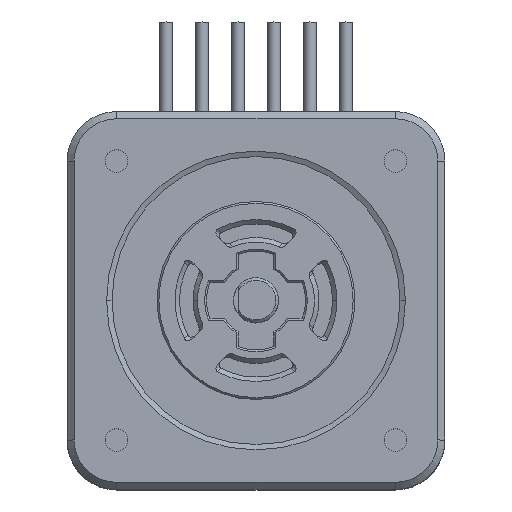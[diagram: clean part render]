
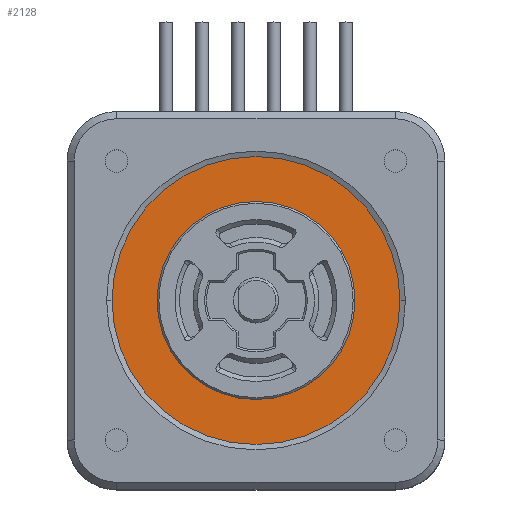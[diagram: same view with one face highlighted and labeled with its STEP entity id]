
A CAD part, top view. The second image highlights one B-rep face of the part: STEP entity #2128.
In plain terms, the highlighted planar face has unit normal (0, 0, 1).
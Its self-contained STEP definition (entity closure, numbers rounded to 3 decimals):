
#8 = CIRCLE ( 'NONE', #225, 11. ) ;
#40 = CIRCLE ( 'NONE', #278, 16. ) ;
#176 = AXIS2_PLACEMENT_3D ( 'NONE', #4655, #4654, #4653 ) ;
#225 = AXIS2_PLACEMENT_3D ( 'NONE', #5885, #5883, #5882 ) ;
#278 = AXIS2_PLACEMENT_3D ( 'NONE', #5880, #5878, #5877 ) ;
#671 = CARTESIAN_POINT ( 'NONE',  ( 0., 0., -0.3 ) ) ;
#672 = DIRECTION ( 'NONE',  ( 0., 0., 1. ) ) ;
#673 = DIRECTION ( 'NONE',  ( 1., 0., 0. ) ) ;
#681 = CARTESIAN_POINT ( 'NONE',  ( 0., 0., -0.3 ) ) ;
#682 = DIRECTION ( 'NONE',  ( 0., 0., 1. ) ) ;
#683 = DIRECTION ( 'NONE',  ( 1., 0., 0. ) ) ;
#1798 = CIRCLE ( 'NONE', #1817, 16. ) ;
#1817 = AXIS2_PLACEMENT_3D ( 'NONE', #671, #672, #673 ) ;
#1856 = CIRCLE ( 'NONE', #1886, 11. ) ;
#1886 = AXIS2_PLACEMENT_3D ( 'NONE', #681, #682, #683 ) ;
#2050 = EDGE_CURVE ( 'NONE', #8808, #9606, #8, .T. ) ;
#2051 = EDGE_CURVE ( 'NONE', #9073, #9107, #40, .T. ) ;
#2128 = ADVANCED_FACE ( 'NONE', ( #5244, #5164 ), #4656, .T. ) ;
#2755 = EDGE_CURVE ( 'NONE', #9107, #9073, #1798, .T. ) ;
#2759 = EDGE_CURVE ( 'NONE', #9606, #8808, #1856, .T. ) ;
#4653 = DIRECTION ( 'NONE',  ( 1., 0., 0. ) ) ;
#4654 = DIRECTION ( 'NONE',  ( 0., 0., 1. ) ) ;
#4655 = CARTESIAN_POINT ( 'NONE',  ( 0., 0., -0.3 ) ) ;
#4656 = PLANE ( 'NONE',  #176 ) ;
#5035 = EDGE_LOOP ( 'NONE', ( #9072, #8569 ) ) ;
#5164 = FACE_OUTER_BOUND ( 'NONE', #6439, .T. ) ;
#5244 = FACE_BOUND ( 'NONE', #5035, .T. ) ;
#5877 = DIRECTION ( 'NONE',  ( 1., 0., 0. ) ) ;
#5878 = DIRECTION ( 'NONE',  ( 0., 0., 1. ) ) ;
#5880 = CARTESIAN_POINT ( 'NONE',  ( 0., 0., -0.3 ) ) ;
#5882 = DIRECTION ( 'NONE',  ( 1., 0., 0. ) ) ;
#5883 = DIRECTION ( 'NONE',  ( 0., 0., 1. ) ) ;
#5885 = CARTESIAN_POINT ( 'NONE',  ( 0., 0., -0.3 ) ) ;
#6439 = EDGE_LOOP ( 'NONE', ( #9425, #9014 ) ) ;
#8569 = ORIENTED_EDGE ( 'NONE', *, *, #2759, .F. ) ;
#8808 = VERTEX_POINT ( 'NONE', #10120 ) ;
#9014 = ORIENTED_EDGE ( 'NONE', *, *, #2755, .T. ) ;
#9072 = ORIENTED_EDGE ( 'NONE', *, *, #2050, .F. ) ;
#9073 = VERTEX_POINT ( 'NONE', #10218 ) ;
#9107 = VERTEX_POINT ( 'NONE', #10238 ) ;
#9425 = ORIENTED_EDGE ( 'NONE', *, *, #2051, .T. ) ;
#9606 = VERTEX_POINT ( 'NONE', #10464 ) ;
#10120 = CARTESIAN_POINT ( 'NONE',  ( -11., 0., -0.3 ) ) ;
#10218 = CARTESIAN_POINT ( 'NONE',  ( 16., 0., -0.3 ) ) ;
#10238 = CARTESIAN_POINT ( 'NONE',  ( -16., 0., -0.3 ) ) ;
#10464 = CARTESIAN_POINT ( 'NONE',  ( 11., 0., -0.3 ) ) ;
